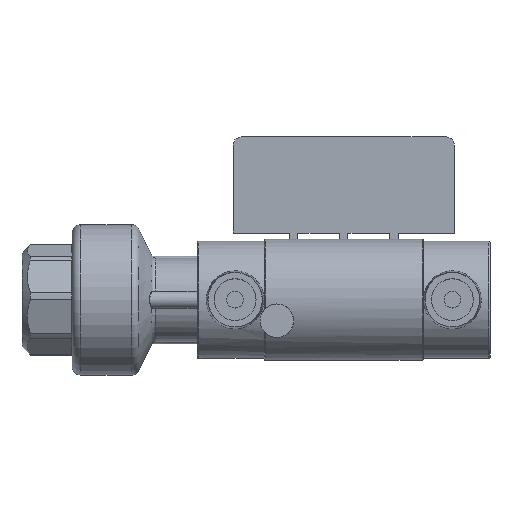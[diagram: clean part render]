
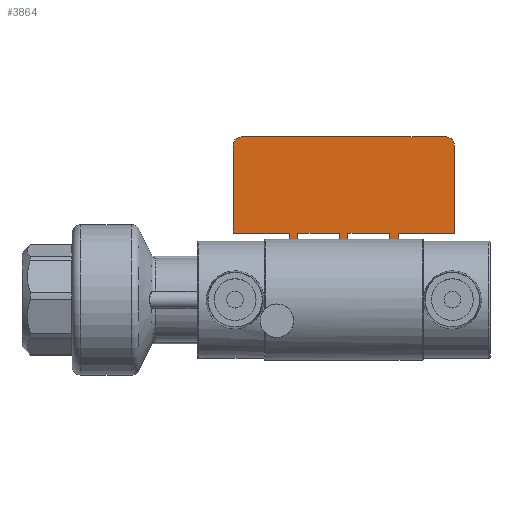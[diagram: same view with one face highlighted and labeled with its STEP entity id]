
A CAD part, top view. The second image highlights one B-rep face of the part: STEP entity #3864.
In plain terms, the highlighted planar face has unit normal (0, 0, 1).
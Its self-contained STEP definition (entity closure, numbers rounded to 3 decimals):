
#248=CIRCLE('',#4907,2.);
#250=CIRCLE('',#4922,2.);
#659=ORIENTED_EDGE('',*,*,#1665,.F.);
#660=ORIENTED_EDGE('',*,*,#1704,.F.);
#661=ORIENTED_EDGE('',*,*,#1701,.F.);
#662=ORIENTED_EDGE('',*,*,#1698,.F.);
#663=ORIENTED_EDGE('',*,*,#1695,.F.);
#664=ORIENTED_EDGE('',*,*,#1692,.F.);
#665=ORIENTED_EDGE('',*,*,#1623,.F.);
#666=ORIENTED_EDGE('',*,*,#1689,.F.);
#667=ORIENTED_EDGE('',*,*,#1687,.F.);
#668=ORIENTED_EDGE('',*,*,#1684,.F.);
#669=ORIENTED_EDGE('',*,*,#1613,.F.);
#670=ORIENTED_EDGE('',*,*,#1681,.F.);
#671=ORIENTED_EDGE('',*,*,#1679,.F.);
#672=ORIENTED_EDGE('',*,*,#1676,.F.);
#673=ORIENTED_EDGE('',*,*,#1627,.F.);
#674=ORIENTED_EDGE('',*,*,#1673,.F.);
#675=ORIENTED_EDGE('',*,*,#1671,.F.);
#676=ORIENTED_EDGE('',*,*,#1668,.F.);
#1613=EDGE_CURVE('',#2165,#2166,#2541,.T.);
#1623=EDGE_CURVE('',#2174,#2176,#2544,.T.);
#1627=EDGE_CURVE('',#2178,#2180,#2546,.T.);
#1665=EDGE_CURVE('',#2213,#2214,#248,.T.);
#1668=EDGE_CURVE('',#2214,#2216,#2555,.T.);
#1671=EDGE_CURVE('',#2216,#2218,#2558,.T.);
#1673=EDGE_CURVE('',#2218,#2178,#2560,.T.);
#1676=EDGE_CURVE('',#2180,#2220,#2563,.T.);
#1679=EDGE_CURVE('',#2220,#2222,#2566,.T.);
#1681=EDGE_CURVE('',#2222,#2165,#2568,.T.);
#1684=EDGE_CURVE('',#2166,#2224,#2571,.T.);
#1687=EDGE_CURVE('',#2224,#2226,#2574,.T.);
#1689=EDGE_CURVE('',#2226,#2174,#2576,.T.);
#1692=EDGE_CURVE('',#2176,#2228,#2579,.T.);
#1695=EDGE_CURVE('',#2228,#2230,#2582,.T.);
#1698=EDGE_CURVE('',#2230,#2232,#2585,.T.);
#1701=EDGE_CURVE('',#2232,#2234,#250,.T.);
#1704=EDGE_CURVE('',#2234,#2213,#2589,.T.);
#2165=VERTEX_POINT('',#6663);
#2166=VERTEX_POINT('',#6664);
#2174=VERTEX_POINT('',#6694);
#2176=VERTEX_POINT('',#6697);
#2178=VERTEX_POINT('',#6702);
#2180=VERTEX_POINT('',#6705);
#2213=VERTEX_POINT('',#6850);
#2214=VERTEX_POINT('',#6852);
#2216=VERTEX_POINT('',#6858);
#2218=VERTEX_POINT('',#6864);
#2220=VERTEX_POINT('',#6873);
#2222=VERTEX_POINT('',#6879);
#2224=VERTEX_POINT('',#6888);
#2226=VERTEX_POINT('',#6894);
#2228=VERTEX_POINT('',#6903);
#2230=VERTEX_POINT('',#6909);
#2232=VERTEX_POINT('',#6915);
#2234=VERTEX_POINT('',#6921);
#2541=LINE('',#6662,#2784);
#2544=LINE('',#6696,#2787);
#2546=LINE('',#6704,#2789);
#2555=LINE('',#6857,#2798);
#2558=LINE('',#6863,#2801);
#2560=LINE('',#6867,#2803);
#2563=LINE('',#6872,#2806);
#2566=LINE('',#6878,#2809);
#2568=LINE('',#6882,#2811);
#2571=LINE('',#6887,#2814);
#2574=LINE('',#6893,#2817);
#2576=LINE('',#6897,#2819);
#2579=LINE('',#6902,#2822);
#2582=LINE('',#6908,#2825);
#2585=LINE('',#6914,#2828);
#2589=LINE('',#6925,#2832);
#2784=VECTOR('',#5390,1000.);
#2787=VECTOR('',#5403,1000.);
#2789=VECTOR('',#5409,1000.);
#2798=VECTOR('',#5528,1000.);
#2801=VECTOR('',#5533,1000.);
#2803=VECTOR('',#5537,1000.);
#2806=VECTOR('',#5542,1000.);
#2809=VECTOR('',#5547,1000.);
#2811=VECTOR('',#5551,1000.);
#2814=VECTOR('',#5556,1000.);
#2817=VECTOR('',#5561,1000.);
#2819=VECTOR('',#5565,1000.);
#2822=VECTOR('',#5570,1000.);
#2825=VECTOR('',#5575,1000.);
#2828=VECTOR('',#5580,1000.);
#2832=VECTOR('',#5592,1000.);
#3092=EDGE_LOOP('',(#659,#660,#661,#662,#663,#664,#665,#666,#667,#668,#669,
#670,#671,#672,#673,#674,#675,#676));
#3426=FACE_BOUND('',#3092,.T.);
#3713=PLANE('',#4924);
#3864=ADVANCED_FACE('',(#3426),#3713,.F.);
#4907=AXIS2_PLACEMENT_3D('',#6851,#5522,#5523);
#4922=AXIS2_PLACEMENT_3D('',#6920,#5586,#5587);
#4924=AXIS2_PLACEMENT_3D('',#6926,#5593,#5594);
#5390=DIRECTION('',(-1.,0.,0.));
#5403=DIRECTION('',(-1.,0.,0.));
#5409=DIRECTION('',(-1.,0.,0.));
#5522=DIRECTION('',(0.,0.,-1.));
#5523=DIRECTION('',(-1.,0.,0.));
#5528=DIRECTION('',(0.,-1.,0.));
#5533=DIRECTION('',(-1.,0.,0.));
#5537=DIRECTION('',(0.,-1.,0.));
#5542=DIRECTION('',(0.,1.,0.));
#5547=DIRECTION('',(-1.,0.,0.));
#5551=DIRECTION('',(0.,-1.,0.));
#5556=DIRECTION('',(0.,1.,0.));
#5561=DIRECTION('',(-1.,0.,0.));
#5565=DIRECTION('',(0.,-1.,0.));
#5570=DIRECTION('',(0.,1.,0.));
#5575=DIRECTION('',(-1.,0.,0.));
#5580=DIRECTION('',(0.,1.,0.));
#5586=DIRECTION('',(0.,0.,-1.));
#5587=DIRECTION('',(1.,0.,0.));
#5592=DIRECTION('',(1.,0.,0.));
#5593=DIRECTION('',(0.,0.,-1.));
#5594=DIRECTION('',(-1.,0.,0.));
#6662=CARTESIAN_POINT('',(-60.,14.491,0.5));
#6663=CARTESIAN_POINT('',(1.,14.491,0.5));
#6664=CARTESIAN_POINT('',(-1.,14.491,0.5));
#6694=CARTESIAN_POINT('',(-11.,14.491,0.5));
#6696=CARTESIAN_POINT('',(-60.,14.491,0.5));
#6697=CARTESIAN_POINT('',(-13.,14.491,0.5));
#6702=CARTESIAN_POINT('',(13.,14.491,0.5));
#6704=CARTESIAN_POINT('',(-60.,14.491,0.5));
#6705=CARTESIAN_POINT('',(11.,14.491,0.5));
#6850=CARTESIAN_POINT('',(24.5,39.,0.5));
#6851=CARTESIAN_POINT('',(24.5,37.,0.5));
#6852=CARTESIAN_POINT('',(26.5,37.,0.5));
#6857=CARTESIAN_POINT('',(26.5,37.,0.5));
#6858=CARTESIAN_POINT('',(26.5,16.,0.5));
#6863=CARTESIAN_POINT('',(26.5,16.,0.5));
#6864=CARTESIAN_POINT('',(13.,16.,0.5));
#6867=CARTESIAN_POINT('',(13.,16.,0.5));
#6872=CARTESIAN_POINT('',(11.,16.,0.5));
#6873=CARTESIAN_POINT('',(11.,16.,0.5));
#6878=CARTESIAN_POINT('',(11.,16.,0.5));
#6879=CARTESIAN_POINT('',(1.,16.,0.5));
#6882=CARTESIAN_POINT('',(1.,16.,0.5));
#6887=CARTESIAN_POINT('',(-1.,16.,0.5));
#6888=CARTESIAN_POINT('',(-1.,16.,0.5));
#6893=CARTESIAN_POINT('',(-1.,16.,0.5));
#6894=CARTESIAN_POINT('',(-11.,16.,0.5));
#6897=CARTESIAN_POINT('',(-11.,16.,0.5));
#6902=CARTESIAN_POINT('',(-13.,16.,0.5));
#6903=CARTESIAN_POINT('',(-13.,16.,0.5));
#6908=CARTESIAN_POINT('',(-13.,16.,0.5));
#6909=CARTESIAN_POINT('',(-26.5,16.,0.5));
#6914=CARTESIAN_POINT('',(-26.5,16.,0.5));
#6915=CARTESIAN_POINT('',(-26.5,37.,0.5));
#6920=CARTESIAN_POINT('',(-24.5,37.,0.5));
#6921=CARTESIAN_POINT('',(-24.5,39.,0.5));
#6925=CARTESIAN_POINT('',(-24.5,39.,0.5));
#6926=CARTESIAN_POINT('',(24.5,37.,0.5));
